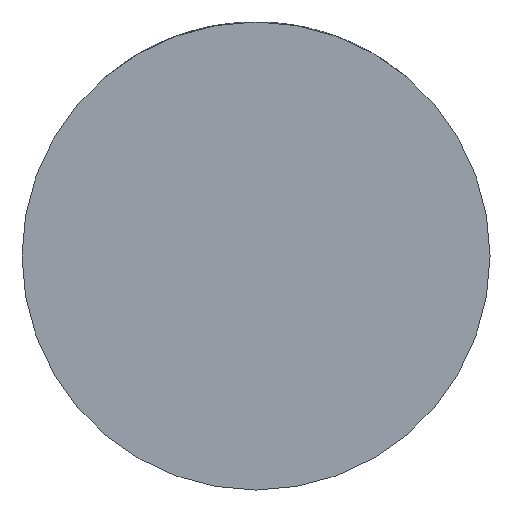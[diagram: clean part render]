
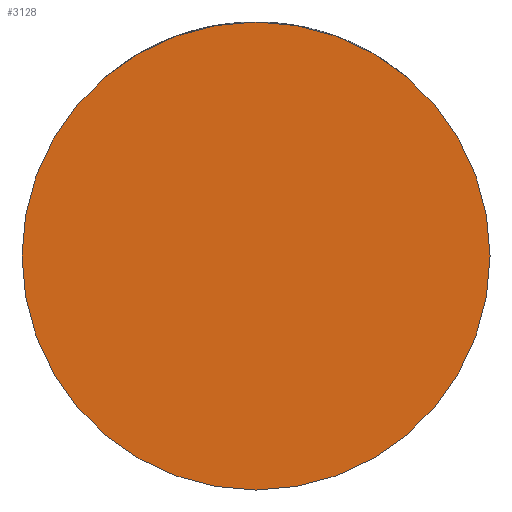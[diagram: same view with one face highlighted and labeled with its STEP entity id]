
A CAD part, front view. The second image highlights one B-rep face of the part: STEP entity #3128.
In plain terms, the highlighted planar face has unit normal (0, -1, 0).
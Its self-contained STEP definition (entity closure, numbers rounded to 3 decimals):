
#652 = EDGE_CURVE ( 'NONE', #4155, #3187, #3528, .T. ) ;
#760 = EDGE_CURVE ( 'NONE', #3187, #4155, #3673, .T. ) ;
#1095 = PLANE ( 'NONE',  #2219 ) ;
#1144 = FACE_OUTER_BOUND ( 'NONE', #1622, .T. ) ;
#1509 = CARTESIAN_POINT ( 'NONE',  ( 0., -27., 0. ) ) ;
#1622 = EDGE_LOOP ( 'NONE', ( #3446, #3535 ) ) ;
#1740 = AXIS2_PLACEMENT_3D ( 'NONE', #3130, #2859, #3557 ) ;
#2019 = DIRECTION ( 'NONE',  ( 0., -1., 0. ) ) ;
#2060 = DIRECTION ( 'NONE',  ( 1., 0., 0. ) ) ;
#2219 = AXIS2_PLACEMENT_3D ( 'NONE', #1509, #4179, #2879 ) ;
#2859 = DIRECTION ( 'NONE',  ( 0., -1., 0. ) ) ;
#2879 = DIRECTION ( 'NONE',  ( 1., 0., 0. ) ) ;
#2901 = CARTESIAN_POINT ( 'NONE',  ( 32., -27., 0. ) ) ;
#3128 = ADVANCED_FACE ( 'NONE', ( #1144 ), #1095, .T. ) ;
#3130 = CARTESIAN_POINT ( 'NONE',  ( 0., -27., 0. ) ) ;
#3163 = AXIS2_PLACEMENT_3D ( 'NONE', #4414, #2019, #2060 ) ;
#3187 = VERTEX_POINT ( 'NONE', #2901 ) ;
#3399 = CARTESIAN_POINT ( 'NONE',  ( -32., -27., 0. ) ) ;
#3446 = ORIENTED_EDGE ( 'NONE', *, *, #652, .T. ) ;
#3528 = CIRCLE ( 'NONE', #3163, 32. ) ;
#3535 = ORIENTED_EDGE ( 'NONE', *, *, #760, .T. ) ;
#3557 = DIRECTION ( 'NONE',  ( 1., 0., 0. ) ) ;
#3673 = CIRCLE ( 'NONE', #1740, 32. ) ;
#4155 = VERTEX_POINT ( 'NONE', #3399 ) ;
#4179 = DIRECTION ( 'NONE',  ( 0., -1., 0. ) ) ;
#4414 = CARTESIAN_POINT ( 'NONE',  ( 0., -27., 0. ) ) ;
